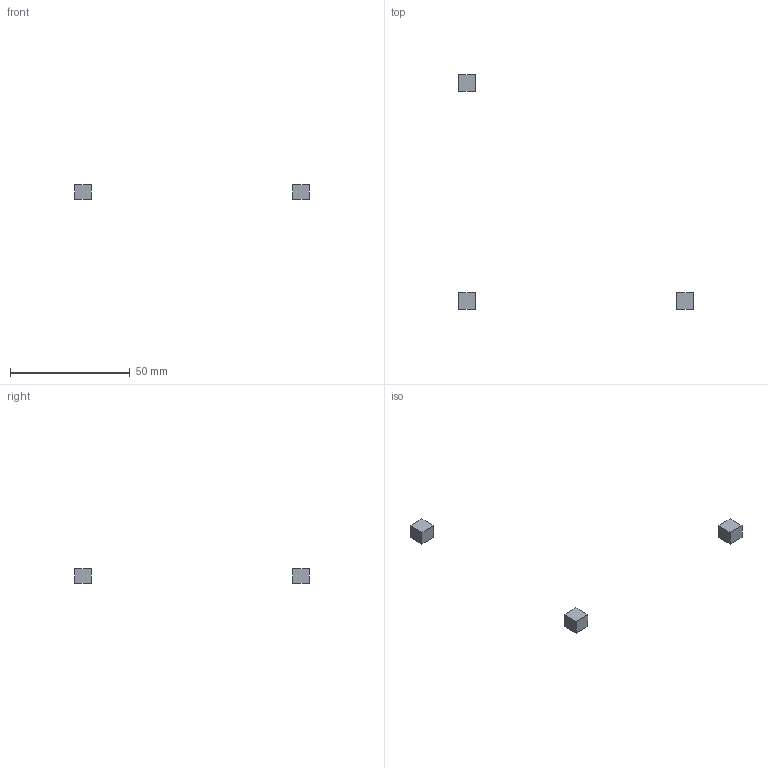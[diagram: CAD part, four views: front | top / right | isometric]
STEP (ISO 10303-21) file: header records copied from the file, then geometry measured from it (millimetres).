
FILE_DESCRIPTION(('Open CASCADE Model'),'2;1');
FILE_NAME('kills','2026-08-12T02:42:46',('Author'),('Open CASCADE'), 'Open CASCADE STEP processor 7.9','build123d','Unknown');
FILE_SCHEMA(('AUTOMOTIVE_DESIGN { 1 0 10303 214 1 1 1 1 }'));
Length unit declared in the file: millimetre
Products named in the file (4): kills; COMPOUND
Assembly tree (3 placements, depth 2):
  kills
    COMPOUND
    COMPOUND
    COMPOUND
Bounding box: 98 x 98 x 6 mm (x, y, z)
Volume: 882 mm3; surface area: 798 mm2
Topology: 3 solids, 3 shells, 18 faces, 36 edges, 24 vertices
Faces by surface type: plane 18
Entity records: 988 total; most frequent: CARTESIAN_POINT 154, DIRECTION 152, LINE 108, VECTOR 108, ORIENTED_EDGE 72, PCURVE 72, DEFINITIONAL_REPRESENTATION 72, EDGE_CURVE 36
